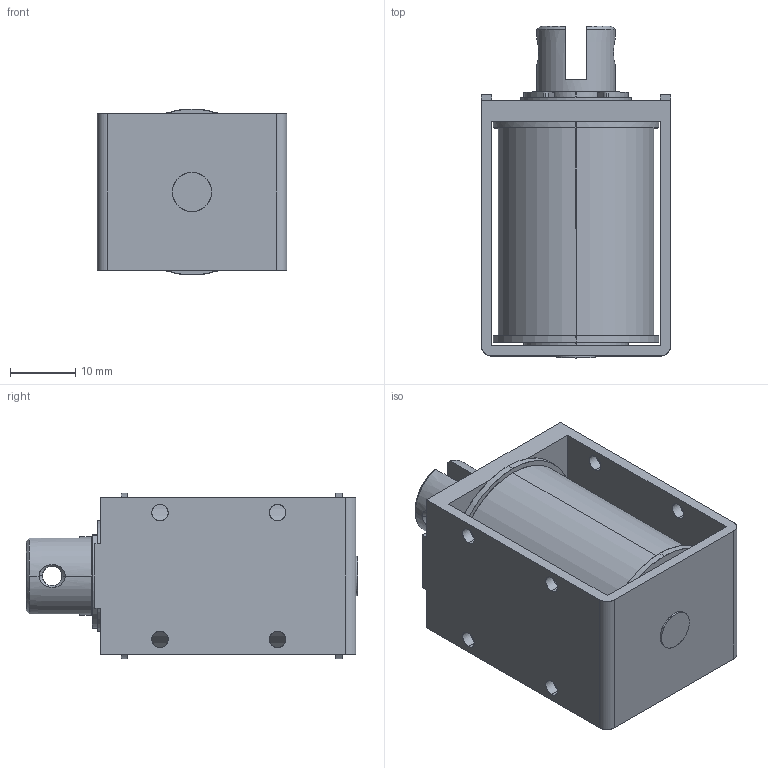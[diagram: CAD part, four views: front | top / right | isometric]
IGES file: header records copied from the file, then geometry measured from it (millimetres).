
Start section: SolidWorks IGES file using analytic representation for surfaces
Global section: file name: L:\カタログ\web用3Dデータ\CE1240\3D_CE1240\w_ce1240.IGS; native system: SolidWorks 2014; preprocessor: SolidWorks 2014; author: jiba; date: 140724.120658; units: millimetre
Bounding box: 29 x 50.8 x 25.4 mm (x, y, z)
Surface area: 12196.5 mm2 (no closed solid volume)
Topology: 0 solids, 0 shells, 130 faces, 2377 edges, 2377 vertices
Faces by surface type: revolution 77, bspline 53
